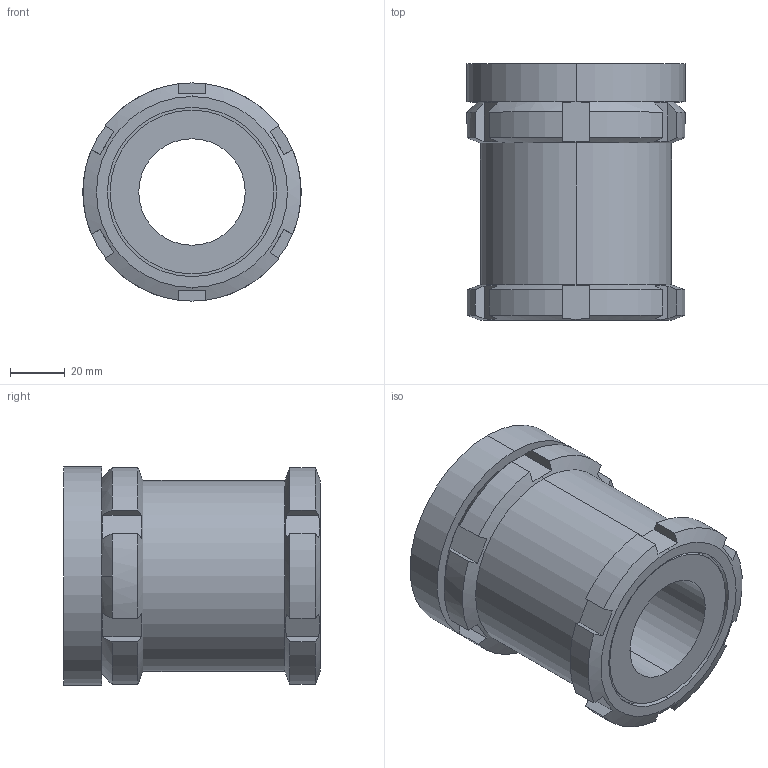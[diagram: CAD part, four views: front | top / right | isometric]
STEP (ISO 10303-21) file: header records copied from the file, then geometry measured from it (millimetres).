
FILE_DESCRIPTION (( 'STEP AP214' ), '1' );
FILE_NAME ('350.2-80-39-94-NI.step', '2023-02-10T07:00:13', ( '' ), ( '' ), 'SwSTEP 2.0', 'SolidWorks 2022', '' );
FILE_SCHEMA (( 'AUTOMOTIVE_DESIGN' ));
Length unit declared in the file: millimetre
Products named in the file (4): WB350.2_Stellbolzen^WB350.2_80-39-94; WB350.2_Kugelteller^WB350.2_80; 350.2-80-39-94-NI; WB350.2_Stellhülse^WB350.2_80-26-94
Assembly tree (3 placements, depth 2):
  350.2-80-39-94-NI
    WB350.2_Stellhülse^WB350.2_80-26-94
    WB350.2_Stellbolzen^WB350.2_80-39-94
    WB350.2_Kugelteller^WB350.2_80
Bounding box: 80 x 94 x 80 mm (x, y, z)
Volume: 269561.5 mm3; surface area: 78515.2 mm2
Topology: 3 solids, 3 shells, 98 faces, 252 edges, 166 vertices
Faces by surface type: plane 48, cylinder 38, cone 8, sphere 4
Entity records: 3368 total; most frequent: CARTESIAN_POINT 738, DIRECTION 510, ORIENTED_EDGE 504, EDGE_CURVE 252, AXIS2_PLACEMENT_3D 214, VERTEX_POINT 166, EDGE_LOOP 110, CIRCLE 110
